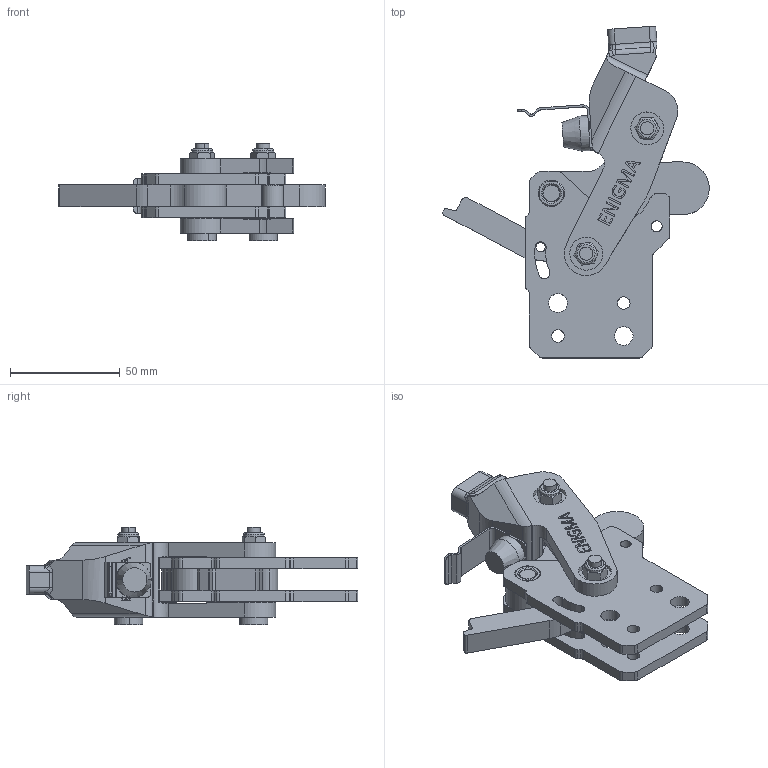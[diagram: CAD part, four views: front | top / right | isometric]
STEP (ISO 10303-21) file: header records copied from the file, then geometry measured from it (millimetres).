
FILE_DESCRIPTION (( 'STEP AP203' ), '1' );
FILE_NAME ('1513_D.STEP', '2022-12-02T07:53:05', ( '' ), ( '' ), 'SwSTEP 2.0', 'SolidWorks 2023', '' );
FILE_SCHEMA (( 'CONFIG_CONTROL_DESIGN' ));
Length unit declared in the file: millimetre
Products named in the file (13): 1533_cap5x10_on paralel burc_Varsayılan; Burc_1503_12x8x5_Varsayılan; 1533_cap8x18_ara mesafe burcu_Varsayılan; 1533_mafsal_Varsayılan; G39x6x8x30_Varsayılan; yaprak yay_Varsayılan; 1533_dovme mafsal_Varsayılan; AS_3_D_G_Varsayılan; 1513_D; 1533_Cap8x20 Tırtıllı Pim_Varsayılan; 1533_Arka Kilit_Varsayılan; 1503_UA_Baskı Kolu_Varsayılan; M6 fiberli Somun_Varsayılan
Assembly tree (25 placements, depth 2):
  1513_D
    1503_UA_Baskı Kolu_Varsayılan
    1533_mafsal_Varsayılan  x2
    1533_dovme mafsal_Varsayılan
    G39x6x8x30_Varsayılan  x2
    M6 fiberli Somun_Varsayılan  x2
    1533_Cap8x20 Tırtıllı Pim_Varsayılan  x2
    1533_cap8x18_ara mesafe burcu_Varsayılan  x2
    Burc_1503_12x8x5_Varsayılan  x8
    1533_cap5x10_on paralel burc_Varsayılan
    yaprak yay_Varsayılan
    1533_Arka Kilit_Varsayılan
    AS_3_D_G_Varsayılan  x2
Bounding box: 121.48 x 151.28 x 44.5 mm (x, y, z)
Volume: 138040.5 mm3; surface area: 65388.1 mm2
Topology: 25 solids, 25 shells, 1599 faces, 4159 edges, 2724 vertices
Faces by surface type: plane 1009, cylinder 297, bspline 171, cone 114, torus 8
Entity records: 34167 total; most frequent: CARTESIAN_POINT 12561, ORIENTED_EDGE 4432, DIRECTION 3626, EDGE_CURVE 2216, VERTEX_POINT 1456, LINE 1324, VECTOR 1324, AXIS2_PLACEMENT_3D 1151
